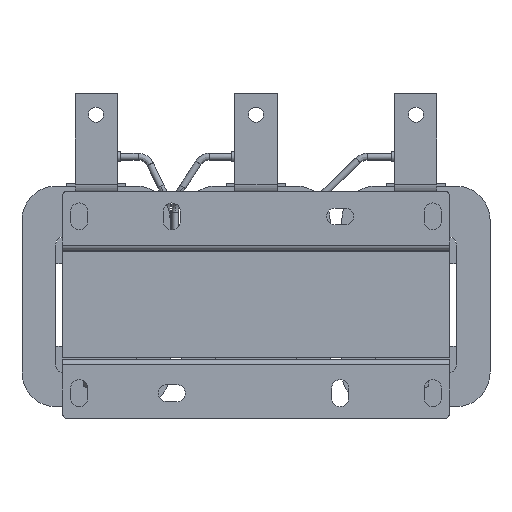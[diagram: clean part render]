
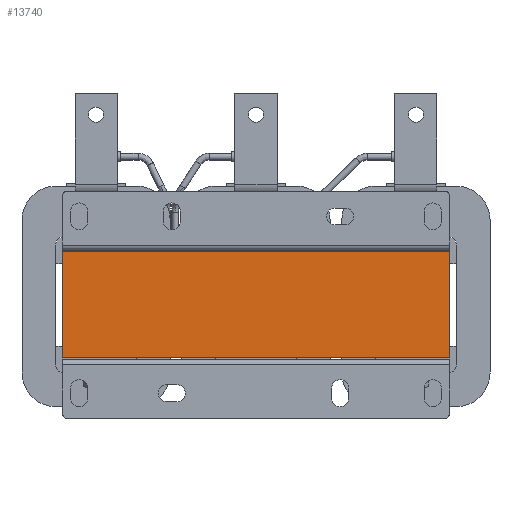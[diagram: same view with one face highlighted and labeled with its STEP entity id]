
A CAD part, front view. The second image highlights one B-rep face of the part: STEP entity #13740.
In plain terms, the highlighted planar face has unit normal (0, -1, 0).
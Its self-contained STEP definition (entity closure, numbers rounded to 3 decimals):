
#322 = VERTEX_POINT ( 'NONE', #17139 ) ;
#812 = LINE ( 'NONE', #23435, #13141 ) ;
#1031 = CARTESIAN_POINT ( 'NONE',  ( -115., -100., 63. ) ) ;
#1271 = LINE ( 'NONE', #16147, #21559 ) ;
#1801 = ORIENTED_EDGE ( 'NONE', *, *, #5580, .F. ) ;
#2941 = DIRECTION ( 'NONE',  ( 0., 0., 1. ) ) ;
#3129 = LINE ( 'NONE', #1031, #9580 ) ;
#4914 = PLANE ( 'NONE',  #10755 ) ;
#5580 = EDGE_CURVE ( 'NONE', #7971, #22242, #812, .T. ) ;
#6304 = DIRECTION ( 'NONE',  ( 1., 0., 0. ) ) ;
#6310 = EDGE_CURVE ( 'NONE', #322, #21341, #1271, .T. ) ;
#6317 = EDGE_CURVE ( 'NONE', #322, #7971, #3129, .T. ) ;
#6954 = CARTESIAN_POINT ( 'NONE',  ( 115., -100., 63. ) ) ;
#7175 = CARTESIAN_POINT ( 'NONE',  ( -115., -100., 63. ) ) ;
#7971 = VERTEX_POINT ( 'NONE', #21899 ) ;
#9056 = FACE_OUTER_BOUND ( 'NONE', #9823, .T. ) ;
#9580 = VECTOR ( 'NONE', #21894, 1000. ) ;
#9823 = EDGE_LOOP ( 'NONE', ( #14354, #1801, #18554, #12950 ) ) ;
#10755 = AXIS2_PLACEMENT_3D ( 'NONE', #7175, #20435, #16690 ) ;
#10768 = DIRECTION ( 'NONE',  ( 1., 0., 0. ) ) ;
#12950 = ORIENTED_EDGE ( 'NONE', *, *, #6310, .T. ) ;
#13141 = VECTOR ( 'NONE', #6304, 1000. ) ;
#13175 = VECTOR ( 'NONE', #2941, 1000. ) ;
#13740 = ADVANCED_FACE ( 'NONE', ( #9056 ), #4914, .F. ) ;
#14354 = ORIENTED_EDGE ( 'NONE', *, *, #14723, .T. ) ;
#14723 = EDGE_CURVE ( 'NONE', #21341, #22242, #21951, .T. ) ;
#16147 = CARTESIAN_POINT ( 'NONE',  ( 0., -100., 0. ) ) ;
#16690 = DIRECTION ( 'NONE',  ( -1., 0., 0. ) ) ;
#17139 = CARTESIAN_POINT ( 'NONE',  ( -115., -100., 0. ) ) ;
#18554 = ORIENTED_EDGE ( 'NONE', *, *, #6317, .F. ) ;
#20435 = DIRECTION ( 'NONE',  ( 0., 1., 0. ) ) ;
#21341 = VERTEX_POINT ( 'NONE', #23014 ) ;
#21559 = VECTOR ( 'NONE', #10768, 1000. ) ;
#21894 = DIRECTION ( 'NONE',  ( 0., 0., 1. ) ) ;
#21899 = CARTESIAN_POINT ( 'NONE',  ( -115., -100., 63. ) ) ;
#21951 = LINE ( 'NONE', #24322, #13175 ) ;
#22242 = VERTEX_POINT ( 'NONE', #6954 ) ;
#23014 = CARTESIAN_POINT ( 'NONE',  ( 115., -100., 0. ) ) ;
#23435 = CARTESIAN_POINT ( 'NONE',  ( -115., -100., 63. ) ) ;
#24322 = CARTESIAN_POINT ( 'NONE',  ( 115., -100., 63. ) ) ;
